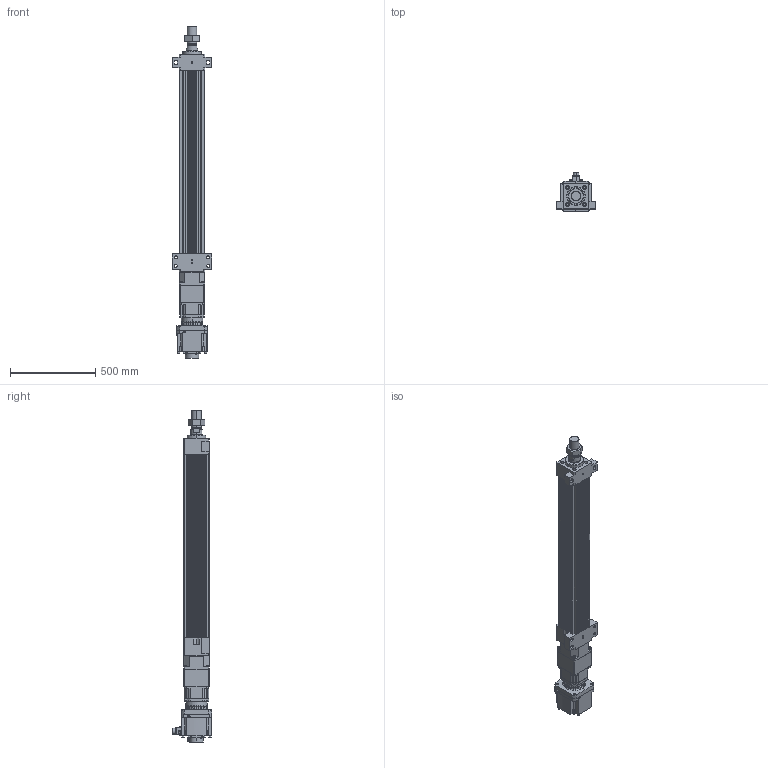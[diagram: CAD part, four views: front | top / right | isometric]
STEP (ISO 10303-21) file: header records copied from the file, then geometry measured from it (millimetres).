
FILE_DESCRIPTION (( 'STEP AP203' ), '1' );
FILE_NAME ('HES150NS(HS)-S800-W035G00-M-FFB.STEP', '2023-02-01T03:25:53', ( 'tms' ), ( '' ), 'SwSTEP 2.0', 'SolidWorks 2013', '' );
FILE_SCHEMA (( 'CONFIG_CONTROL_DESIGN' ));
Length unit declared in the file: millimetre
Products named in the file (9): HES150 ROD M ST800; P0403500801; HES150NS(HS)-S800-W035G00-M-FFB; P1301500001; AB1421; M56X2.0P; AB142-003[HG-SR352]; HES150-S800-G142-FFB; HG-SR352
Assembly tree (8 placements, depth 3):
  HES150NS(HS)-S800-W035G00-M-FFB
    HES150-S800-G142-FFB
    HES150 ROD M ST800
    M56X2.0P
    AB142-003[HG-SR352]
      AB1421
      P1301500001
      P0403500801
    HG-SR352
Bounding box: 230 x 228.85 x 1947.5 mm (x, y, z)
Volume: 21893001.4 mm3; surface area: 2467730.3 mm2
Topology: 5 solids, 23 shells, 1522 faces, 3951 edges, 2569 vertices
Faces by surface type: cylinder 691, plane 599, cone 150, bspline 76, torus 6
Entity records: 55583 total; most frequent: CARTESIAN_POINT 16843, DIRECTION 8091, ORIENTED_EDGE 7808, EDGE_CURVE 3926, AXIS2_PLACEMENT_3D 3042, VERTEX_POINT 2569, VECTOR 2007, LINE 2007
